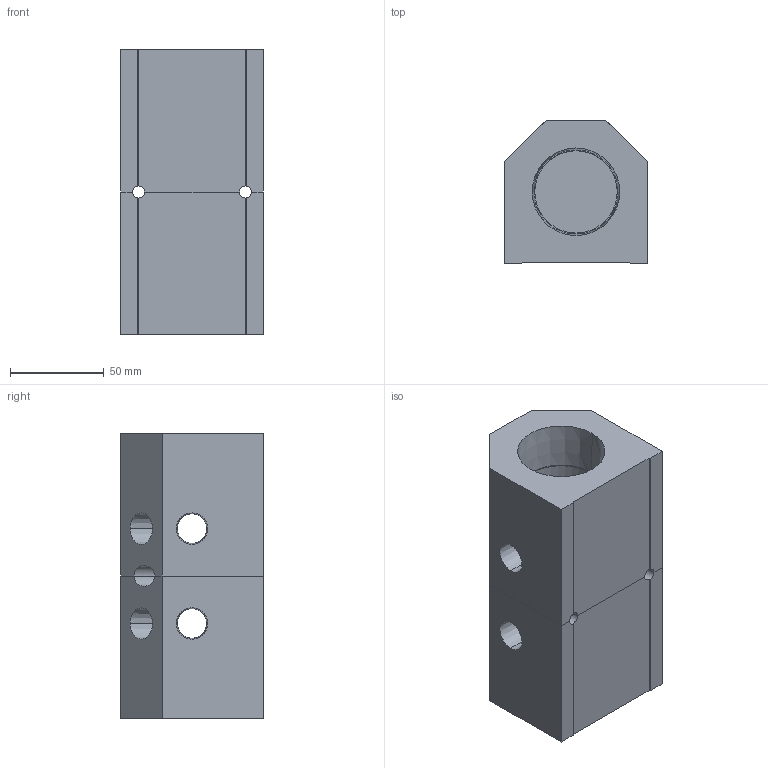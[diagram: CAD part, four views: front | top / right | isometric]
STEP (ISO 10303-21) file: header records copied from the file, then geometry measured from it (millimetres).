
FILE_DESCRIPTION (( 'STEP AP214' ), '1' );
FILE_NAME ('ALM2ABCDE-N6N24-152RB.step', '2022-02-07T09:15:48', ( '' ), ( '' ), 'SwSTEP 2.0', 'SolidWorks 2020', '' );
FILE_SCHEMA (( 'AUTOMOTIVE_DESIGN' ));
Length unit declared in the file: millimetre
Products named in the file (1): ALM2ABCDE-N6N24-152RB
Bounding box: 76.2 x 76.2 x 152 mm (x, y, z)
Volume: 529096.3 mm3; surface area: 89720.5 mm2
Topology: 2 solids, 2 shells, 363 faces, 965 edges, 640 vertices
Faces by surface type: plane 256, bspline 67, cone 24, cylinder 16
Entity records: 19803 total; most frequent: CARTESIAN_POINT 7820, ORIENTED_EDGE 1930, DIRECTION 1451, EDGE_CURVE 965, VECTOR 745, LINE 745, VERTEX_POINT 640, EDGE_LOOP 417
